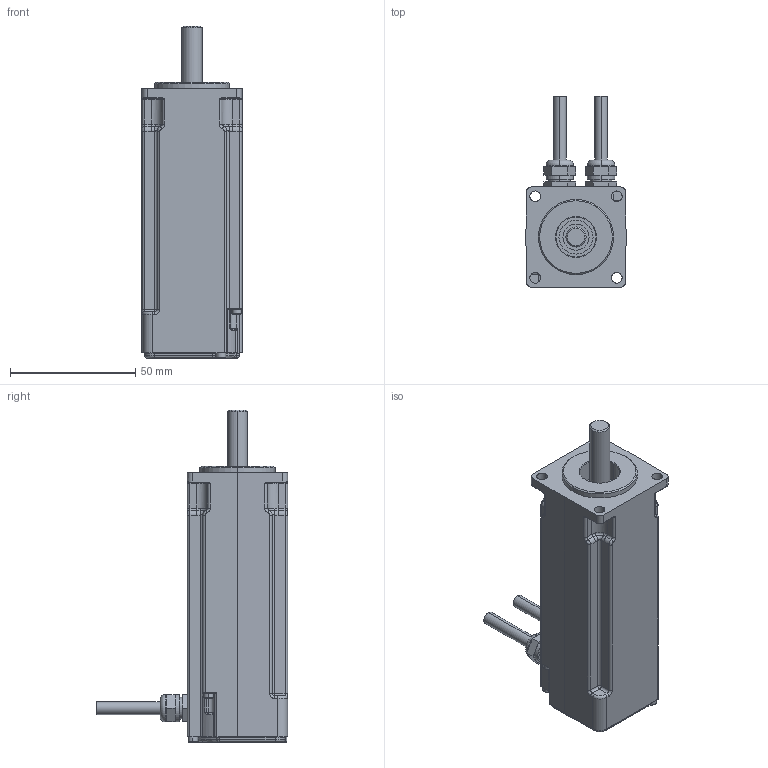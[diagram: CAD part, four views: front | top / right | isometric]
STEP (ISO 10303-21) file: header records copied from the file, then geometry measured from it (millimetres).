
FILE_DESCRIPTION (( 'STEP AP214' ), '1' );
FILE_NAME ('MR7713-Ux-Nxx-G01-AK2-M0-P0.stp', '2009-04-08T13:46:00', ( 'SysAdmin' ), ( 'SolidWorks' ), 'SwSTEP 2.0', 'SolidWorks 2009', '' );
FILE_SCHEMA (( 'AUTOMOTIVE_DESIGN' ));
Length unit declared in the file: millimetre
Products named in the file (1): MR7713-Ux-Nxx-G01-AK2-M0-P0
Bounding box: 40 x 76.33 x 132.6 mm (x, y, z)
Volume: 159481.9 mm3; surface area: 23094.1 mm2
Topology: 1 solids, 1 shells, 446 faces, 1022 edges, 579 vertices
Faces by surface type: cylinder 160, plane 115, bspline 84, torus 59, cone 26, sphere 2
Entity records: 18662 total; most frequent: CARTESIAN_POINT 4556, ORIENTED_EDGE 2012, DIRECTION 1984, EDGE_CURVE 1006, AXIS2_PLACEMENT_3D 789, VERTEX_POINT 579, EDGE_LOOP 471, FACE_OUTER_BOUND 446
